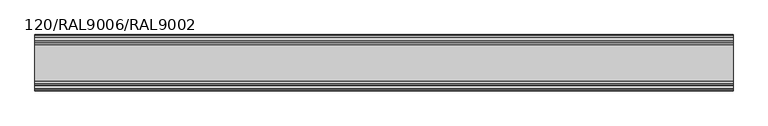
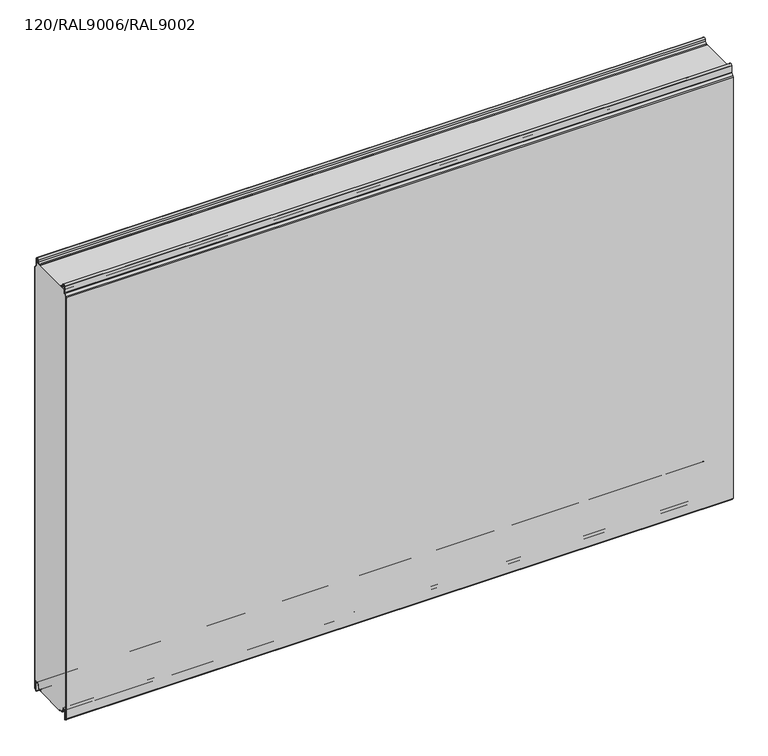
"""IFC4 building model written with IfcOpenShell, lengths in millimetres: plate geometry, TR_C_H_FTV_Panel : 120/RAL9006/RAL9002."""

from ifc_helpers import new_model, si_unit, point, frame, frame_2d, origin, place, context, project, spatial, polyline, circle_curve, trimmed, segment, composite_curve, outline, extrude, source, transform, mapped, element, save


def plate_120_ral9006_ral9002_b39c6196(model_context):
    return source(origin(), model_context, "Body", "SweptSolid", [
        extrude(outline(composite_curve([segment(polyline([(-0.8, 14.4000012), (-9.45, 14.4000012)]), True, "CONTINUOUS"), segment(trimmed(circle_curve(frame_2d((-9.45, 10.1500012)), 4.25), [point((-9.45, 14.4000012))], [point((-13.635433, 10.8880059))], True, "CARTESIAN"), True, "CONTINUOUS"), segment(polyline([(-13.635433, 10.8880059), (-14.7022582, 4.837739)]), True, "CONTINUOUS"), segment(trimmed(circle_curve(frame_2d((-17.6074411, 5.3500012)), 2.95), [point((-14.7022582, 4.837739))], [point((-17.6074411, 2.4000012))], False, "CARTESIAN"), True, "CONTINUOUS"), segment(polyline([(-17.6074411, 2.4000012), (-23.7, 2.4000012), (-23.7, 1.2e-06), (-96.3, 1.2e-06), (-96.3, 2.4000012), (-102.3925589, 2.4000012)]), True, "CONTINUOUS"), segment(trimmed(circle_curve(frame_2d((-102.3925589, 5.3500012)), 2.95), [point((-102.3925589, 2.4000012))], [point((-105.2977418, 4.837739))], False, "CARTESIAN"), True, "CONTINUOUS"), segment(polyline([(-105.2977418, 4.837739), (-106.364567, 10.8880059)]), True, "CONTINUOUS"), segment(trimmed(circle_curve(frame_2d((-110.55, 10.1500012)), 4.25), [point((-106.364567, 10.8880059))], [point((-110.55, 14.4000012))], True, "CARTESIAN"), True, "CONTINUOUS"), segment(polyline([(-110.55, 14.4000012), (-119.2, 14.4000012), (-119.2, 984.3218266)]), True, "CONTINUOUS"), segment(trimmed(circle_curve(frame_2d((-117.0, 984.3218266)), 2.2), [point((-119.2, 984.3218266))], [point((-118.5556349, 985.8774615))], False, "CARTESIAN"), True, "CONTINUOUS"), segment(polyline([(-118.5556349, 985.8774615), (-114.1665476, 990.2665488)]), True, "CONTINUOUS"), segment(trimmed(circle_curve(frame_2d((-116.5, 992.6000012)), 3.3), [point((-114.1665476, 990.2665488))], [point((-113.2, 992.6000012))], True, "CARTESIAN"), True, "CONTINUOUS"), segment(polyline([(-113.2, 992.6000012), (-113.2, 1000.0), (-6.8, 1000.0), (-6.8, 992.6000012)]), True, "CONTINUOUS"), segment(trimmed(circle_curve(frame_2d((-3.5, 992.6000012)), 3.3), [point((-6.8, 992.6000012))], [point((-5.8334524, 990.2665488))], True, "CARTESIAN"), True, "CONTINUOUS"), segment(polyline([(-5.8334524, 990.2665488), (-1.4443651, 985.8774615)]), True, "CONTINUOUS"), segment(trimmed(circle_curve(frame_2d((-3.0, 984.3218266)), 2.2), [point((-1.4443651, 985.8774615))], [point((-0.8, 984.3218266))], False, "CARTESIAN"), True, "CONTINUOUS"), segment(polyline([(-0.8, 984.3218266), (-0.8, 14.4000012)]), True, "CONTINUOUS")], self_intersect=False)), frame((-740.4, 0.0, 0.0), z_axis=(1.0, 0.0, 0.0), x_axis=(0.0, 1.0, 0.0)), (0.0, 0.0, 1.0), 1480.8),
        extrude(outline(composite_curve([segment(polyline([(-21.0, 2.4000012), (-17.6074411, 2.4000012)]), True, "CONTINUOUS"), segment(trimmed(circle_curve(frame_2d((-17.6074411, 5.3500012)), 2.95), [point((-17.6074411, 2.4000012))], [point((-14.7022582, 4.837739))], True, "CARTESIAN"), True, "CONTINUOUS"), segment(polyline([(-14.7022582, 4.837739), (-13.635433, 10.8880059)]), True, "CONTINUOUS"), segment(trimmed(circle_curve(frame_2d((-9.45, 10.1500012)), 4.25), [point((-13.635433, 10.8880059))], [point((-5.2, 10.1500012))], False, "CARTESIAN"), True, "CONTINUOUS"), segment(polyline([(-5.2, 10.1500012), (-5.2, -7.4499988)]), True, "CONTINUOUS"), segment(trimmed(circle_curve(frame_2d((-4.05, -7.4499988)), 1.15), [point((-5.2, -7.4499988))], [point((-3.2368272, -8.2631716))], True, "CARTESIAN"), True, "CONTINUOUS"), segment(polyline([(-3.2368272, -8.2631716), (-1.3711418, -6.3974862)]), True, "CONTINUOUS"), segment(trimmed(circle_curve(frame_2d((-2.75, -5.018628)), 1.95), [point((-1.3711418, -6.3974862))], [point((-0.8, -5.018628))], True, "CARTESIAN"), True, "CONTINUOUS"), segment(polyline([(-0.8, -5.018628), (-0.8, 984.3218266)]), True, "CONTINUOUS"), segment(trimmed(circle_curve(frame_2d((-3.0, 984.3218266)), 2.2), [point((-0.8, 984.3218266))], [point((-1.4443651, 985.8774615))], True, "CARTESIAN"), True, "CONTINUOUS"), segment(polyline([(-1.4443651, 985.8774615), (-5.8334524, 990.2665488)]), True, "CONTINUOUS"), segment(trimmed(circle_curve(frame_2d((-3.5, 992.6000012)), 3.3), [point((-5.8334524, 990.2665488))], [point((-6.8, 992.6000012))], False, "CARTESIAN"), True, "CONTINUOUS"), segment(polyline([(-6.8, 992.6000012), (-6.8, 1007.3500012)]), True, "CONTINUOUS"), segment(trimmed(circle_curve(frame_2d((-9.25, 1007.3500012)), 2.45), [point((-6.8, 1007.3500012))], [point((-11.662779, 1007.7754392))], True, "CARTESIAN"), True, "CONTINUOUS"), segment(polyline([(-11.662779, 1007.7754392), (-12.4060919, 1003.559902)]), True, "CONTINUOUS"), segment(trimmed(circle_curve(frame_2d((-16.8869672, 1004.3500012)), 4.55), [point((-12.4060919, 1003.559902))], [point((-16.8869672, 999.8000012))], False, "CARTESIAN"), True, "CONTINUOUS"), segment(polyline([(-16.8869672, 999.8000012), (-21.0, 999.8000012), (-21.0, 1000.6000012), (-16.8869672, 1000.6000012)]), True, "CONTINUOUS"), segment(trimmed(circle_curve(frame_2d((-16.8869672, 1004.3500012)), 3.75), [point((-16.8869672, 1000.6000012))], [point((-13.1939382, 1003.6988205))], True, "CARTESIAN"), True, "CONTINUOUS"), segment(polyline([(-13.1939382, 1003.6988205), (-12.4506252, 1007.9143577)]), True, "CONTINUOUS"), segment(trimmed(circle_curve(frame_2d((-9.25, 1007.3500012)), 3.25), [point((-12.4506252, 1007.9143577))], [point((-6.0, 1007.3500012))], False, "CARTESIAN"), True, "CONTINUOUS"), segment(polyline([(-6.0, 1007.3500012), (-6.0, 992.6000012)]), True, "CONTINUOUS"), segment(trimmed(circle_curve(frame_2d((-3.5, 992.6000012)), 2.5), [point((-6.0, 992.6000012))], [point((-5.267767, 990.8322342))], True, "CARTESIAN"), True, "CONTINUOUS"), segment(polyline([(-5.267767, 990.8322342), (-0.8786797, 986.4431469)]), True, "CONTINUOUS"), segment(trimmed(circle_curve(frame_2d((-3.0, 984.3218266)), 3.0), [point((-0.8786797, 986.4431469))], [point((0.0, 984.3218266))], False, "CARTESIAN"), True, "CONTINUOUS"), segment(polyline([(0.0, 984.3218266), (0.0, -5.018628)]), True, "CONTINUOUS"), segment(trimmed(circle_curve(frame_2d((-2.75, -5.018628)), 2.75), [point((0.0, -5.018628))], [point((-0.8054564, -6.9631716))], False, "CARTESIAN"), True, "CONTINUOUS"), segment(polyline([(-0.8054564, -6.9631716), (-2.6711418, -8.8288571)]), True, "CONTINUOUS"), segment(trimmed(circle_curve(frame_2d((-4.05, -7.4499988)), 1.95), [point((-2.6711418, -8.8288571))], [point((-6.0, -7.4499988))], False, "CARTESIAN"), True, "CONTINUOUS"), segment(polyline([(-6.0, -7.4499988), (-6.0, 10.1500012)]), True, "CONTINUOUS"), segment(trimmed(circle_curve(frame_2d((-9.45, 10.1500012)), 3.45), [point((-6.0, 10.1500012))], [point((-12.8475867, 10.7490874))], True, "CARTESIAN"), True, "CONTINUOUS"), segment(polyline([(-12.8475867, 10.7490874), (-13.914412, 4.6988205)]), True, "CONTINUOUS"), segment(trimmed(circle_curve(frame_2d((-17.6074411, 5.3500012)), 3.75), [point((-13.914412, 4.6988205))], [point((-17.6074411, 1.6000012))], False, "CARTESIAN"), True, "CONTINUOUS"), segment(polyline([(-17.6074411, 1.6000012), (-21.0, 1.6000012), (-21.0, 2.4000012)]), True, "CONTINUOUS")], self_intersect=False)), frame((-740.4, 0.0, 0.0), z_axis=(1.0, 0.0, 0.0), x_axis=(0.0, 1.0, 0.0)), (0.0, 0.0, 1.0), 1480.8),
        extrude(outline(composite_curve([segment(trimmed(circle_curve(frame_2d((-103.1130328, 1004.3500012)), 4.55), [point((-103.1130328, 999.8000012))], [point((-107.5939081, 1003.559902))], False, "CARTESIAN"), True, "CONTINUOUS"), segment(polyline([(-107.5939081, 1003.559902), (-108.337221, 1007.7754392)]), True, "CONTINUOUS"), segment(trimmed(circle_curve(frame_2d((-110.75, 1007.3500012)), 2.45), [point((-108.337221, 1007.7754392))], [point((-113.2, 1007.3500012))], True, "CARTESIAN"), True, "CONTINUOUS"), segment(polyline([(-113.2, 1007.3500012), (-113.2, 992.6000012)]), True, "CONTINUOUS"), segment(trimmed(circle_curve(frame_2d((-116.5, 992.6000012)), 3.3), [point((-113.2, 992.6000012))], [point((-114.1665476, 990.2665488))], False, "CARTESIAN"), True, "CONTINUOUS"), segment(polyline([(-114.1665476, 990.2665488), (-118.5556349, 985.8774615)]), True, "CONTINUOUS"), segment(trimmed(circle_curve(frame_2d((-117.0, 984.3218266)), 2.2), [point((-118.5556349, 985.8774615))], [point((-119.2, 984.3218266))], True, "CARTESIAN"), True, "CONTINUOUS"), segment(polyline([(-119.2, 984.3218266), (-119.2, -5.018628)]), True, "CONTINUOUS"), segment(trimmed(circle_curve(frame_2d((-117.25, -5.018628)), 1.95), [point((-119.2, -5.018628))], [point((-118.6288582, -6.3974862))], True, "CARTESIAN"), True, "CONTINUOUS"), segment(polyline([(-118.6288582, -6.3974862), (-116.7631728, -8.2631716)]), True, "CONTINUOUS"), segment(trimmed(circle_curve(frame_2d((-115.95, -7.4499988)), 1.15), [point((-116.7631728, -8.2631716))], [point((-114.8, -7.4499988))], True, "CARTESIAN"), True, "CONTINUOUS"), segment(polyline([(-114.8, -7.4499988), (-114.8, 10.1500012)]), True, "CONTINUOUS"), segment(trimmed(circle_curve(frame_2d((-110.55, 10.1500012)), 4.25), [point((-114.8, 10.1500012))], [point((-106.364567, 10.8880059))], False, "CARTESIAN"), True, "CONTINUOUS"), segment(polyline([(-106.364567, 10.8880059), (-105.2977418, 4.837739)]), True, "CONTINUOUS"), segment(trimmed(circle_curve(frame_2d((-102.3925589, 5.3500012)), 2.95), [point((-105.2977418, 4.837739))], [point((-102.3925589, 2.4000012))], True, "CARTESIAN"), True, "CONTINUOUS"), segment(polyline([(-102.3925589, 2.4000012), (-99.0, 2.4000012), (-99.0, 1.6000012), (-102.3925589, 1.6000012)]), True, "CONTINUOUS"), segment(trimmed(circle_curve(frame_2d((-102.3925589, 5.3500012)), 3.75), [point((-102.3925589, 1.6000012))], [point((-106.085588, 4.6988205))], False, "CARTESIAN"), True, "CONTINUOUS"), segment(polyline([(-106.085588, 4.6988205), (-107.1524133, 10.7490874)]), True, "CONTINUOUS"), segment(trimmed(circle_curve(frame_2d((-110.55, 10.1500012)), 3.45), [point((-107.1524133, 10.7490874))], [point((-114.0, 10.1500012))], True, "CARTESIAN"), True, "CONTINUOUS"), segment(polyline([(-114.0, 10.1500012), (-114.0, -7.4499988)]), True, "CONTINUOUS"), segment(trimmed(circle_curve(frame_2d((-115.95, -7.4499988)), 1.95), [point((-114.0, -7.4499988))], [point((-117.3288582, -8.8288571))], False, "CARTESIAN"), True, "CONTINUOUS"), segment(polyline([(-117.3288582, -8.8288571), (-119.1945436, -6.9631716)]), True, "CONTINUOUS"), segment(trimmed(circle_curve(frame_2d((-117.25, -5.018628)), 2.75), [point((-119.1945436, -6.9631716))], [point((-120.0, -5.018628))], False, "CARTESIAN"), True, "CONTINUOUS"), segment(polyline([(-120.0, -5.018628), (-120.0, 984.3218266)]), True, "CONTINUOUS"), segment(trimmed(circle_curve(frame_2d((-117.0, 984.3218266)), 3.0), [point((-120.0, 984.3218266))], [point((-119.1213203, 986.4431469))], False, "CARTESIAN"), True, "CONTINUOUS"), segment(polyline([(-119.1213203, 986.4431469), (-114.732233, 990.8322342)]), True, "CONTINUOUS"), segment(trimmed(circle_curve(frame_2d((-116.5, 992.6000012)), 2.5), [point((-114.732233, 990.8322342))], [point((-114.0, 992.6000012))], True, "CARTESIAN"), True, "CONTINUOUS"), segment(polyline([(-114.0, 992.6000012), (-114.0, 1007.3500012)]), True, "CONTINUOUS"), segment(trimmed(circle_curve(frame_2d((-110.75, 1007.3500012)), 3.25), [point((-114.0, 1007.3500012))], [point((-107.5493748, 1007.9143577))], False, "CARTESIAN"), True, "CONTINUOUS"), segment(polyline([(-107.5493748, 1007.9143577), (-106.8060618, 1003.6988205)]), True, "CONTINUOUS"), segment(trimmed(circle_curve(frame_2d((-103.1130328, 1004.3500012)), 3.75), [point((-106.8060618, 1003.6988205))], [point((-103.1130328, 1000.6000012))], True, "CARTESIAN"), True, "CONTINUOUS"), segment(polyline([(-103.1130328, 1000.6000012), (-99.0, 1000.6000012), (-99.0, 999.8000012), (-103.1130328, 999.8000012)]), True, "CONTINUOUS")], self_intersect=False)), frame((-740.4, 0.0, 0.0), z_axis=(1.0, 0.0, 0.0), x_axis=(0.0, 1.0, 0.0)), (0.0, 0.0, 1.0), 1480.8),
    ])


if __name__ == "__main__":
    model = new_model("IFC4")
    model_context = context("Model", 3, world=origin())
    ifc_project = project(units=[si_unit("LENGTHUNIT", "METRE", prefix="MILLI")], contexts=[model_context])
    site = spatial("IfcSite", under=ifc_project)
    building = spatial("IfcBuilding", under=site)
    placement = place(None, origin())
    plate_120_ral9006_ral9002_shape = plate_120_ral9006_ral9002_b39c6196(model_context)
    element("IfcPlate", 1, ObjectType="TR_C_H_FTV_Panel : 120/RAL9006/RAL9002", at=placement, inside=building, context=model_context, shape_type="MappedRepresentation", body=[
        mapped(plate_120_ral9006_ral9002_shape, transform((0.0, 0.0, 0.0), x_axis=(1.0, 0.0, 0.0), y_axis=(0.0, 1.0, 0.0), z_axis=(0.0, 0.0, 1.0))),
    ])
    save(model, "model.ifc")
